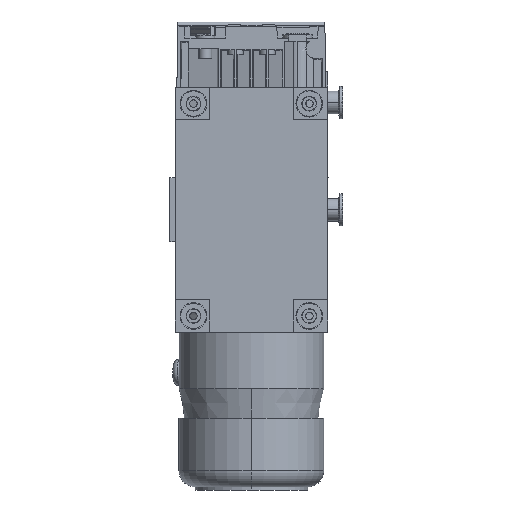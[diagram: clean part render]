
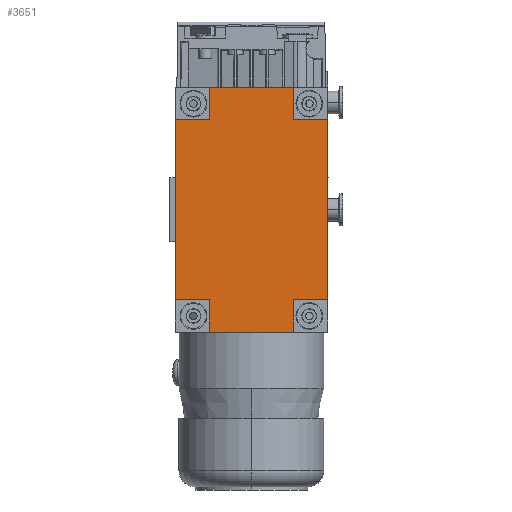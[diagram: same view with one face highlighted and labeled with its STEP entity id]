
A CAD part, front view. The second image highlights one B-rep face of the part: STEP entity #3651.
In plain terms, the highlighted planar face has unit normal (0, -1, 0).
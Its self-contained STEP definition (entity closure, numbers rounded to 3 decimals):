
#167=DIRECTION('',(0.,0.,-1.));
#168=VECTOR('',#167,168.);
#169=CARTESIAN_POINT('',(-71.,-103.,84.));
#170=LINE('',#169,#168);
#973=DIRECTION('',(0.,0.,-1.));
#974=VECTOR('',#973,168.);
#975=CARTESIAN_POINT('',(71.,-103.,84.));
#976=LINE('',#975,#974);
#1029=DIRECTION('',(-1.,0.,0.));
#1030=VECTOR('',#1029,79.);
#1031=CARTESIAN_POINT('',(39.5,-103.,-114.));
#1032=LINE('',#1031,#1030);
#1065=DIRECTION('',(1.,0.,0.));
#1066=VECTOR('',#1065,32.024);
#1067=CARTESIAN_POINT('',(-71.,-103.,84.));
#1068=LINE('',#1067,#1066);
#1069=DIRECTION('',(-0.017,0.,1.));
#1070=VECTOR('',#1069,30.005);
#1071=CARTESIAN_POINT('',(-38.976,-103.,84.));
#1072=LINE('',#1071,#1070);
#1073=DIRECTION('',(-0.017,0.,-1.));
#1074=VECTOR('',#1073,30.005);
#1075=CARTESIAN_POINT('',(39.5,-103.,114.));
#1076=LINE('',#1075,#1074);
#1077=DIRECTION('',(1.,0.,0.));
#1078=VECTOR('',#1077,32.024);
#1079=CARTESIAN_POINT('',(38.976,-103.,84.));
#1080=LINE('',#1079,#1078);
#1081=DIRECTION('',(-1.,0.,0.));
#1082=VECTOR('',#1081,32.024);
#1083=CARTESIAN_POINT('',(71.,-103.,-84.));
#1084=LINE('',#1083,#1082);
#1085=DIRECTION('',(0.017,0.,-1.));
#1086=VECTOR('',#1085,30.005);
#1087=CARTESIAN_POINT('',(38.976,-103.,-84.));
#1088=LINE('',#1087,#1086);
#1089=DIRECTION('',(0.017,0.,1.));
#1090=VECTOR('',#1089,30.005);
#1091=CARTESIAN_POINT('',(-39.5,-103.,-114.));
#1092=LINE('',#1091,#1090);
#1093=DIRECTION('',(-1.,0.,0.));
#1094=VECTOR('',#1093,32.024);
#1095=CARTESIAN_POINT('',(-38.976,-103.,-84.));
#1096=LINE('',#1095,#1094);
#1125=DIRECTION('',(-1.,0.,0.));
#1126=VECTOR('',#1125,79.);
#1127=CARTESIAN_POINT('',(39.5,-103.,114.));
#1128=LINE('',#1127,#1126);
#1949=CARTESIAN_POINT('',(39.5,-103.,114.));
#1950=CARTESIAN_POINT('',(-39.5,-103.,114.));
#1951=VERTEX_POINT('',#1949);
#1952=VERTEX_POINT('',#1950);
#1953=CARTESIAN_POINT('',(39.5,-103.,-114.));
#1954=CARTESIAN_POINT('',(-39.5,-103.,-114.));
#1955=VERTEX_POINT('',#1953);
#1956=VERTEX_POINT('',#1954);
#1957=CARTESIAN_POINT('',(38.976,-103.,-84.));
#1958=VERTEX_POINT('',#1957);
#2033=CARTESIAN_POINT('',(-38.976,-103.,84.));
#2034=VERTEX_POINT('',#2033);
#2035=CARTESIAN_POINT('',(38.976,-103.,84.));
#2036=VERTEX_POINT('',#2035);
#2037=CARTESIAN_POINT('',(-38.976,-103.,-84.));
#2038=VERTEX_POINT('',#2037);
#2139=CARTESIAN_POINT('',(-71.,-103.,84.));
#2140=CARTESIAN_POINT('',(-71.,-103.,-84.));
#2141=VERTEX_POINT('',#2139);
#2142=VERTEX_POINT('',#2140);
#2143=CARTESIAN_POINT('',(71.,-103.,84.));
#2144=CARTESIAN_POINT('',(71.,-103.,-84.));
#2145=VERTEX_POINT('',#2143);
#2146=VERTEX_POINT('',#2144);
#3627=CARTESIAN_POINT('',(39.5,-103.,136.8));
#3628=DIRECTION('',(0.,1.,0.));
#3629=DIRECTION('',(-1.,0.,0.));
#3630=AXIS2_PLACEMENT_3D('',#3627,#3628,#3629);
#3631=PLANE('',#3630);
#3633=ORIENTED_EDGE('',*,*,#3632,.T.);
#3635=ORIENTED_EDGE('',*,*,#3634,.T.);
#3637=ORIENTED_EDGE('',*,*,#3636,.F.);
#3639=ORIENTED_EDGE('',*,*,#3638,.T.);
#3641=ORIENTED_EDGE('',*,*,#3640,.T.);
#3642=ORIENTED_EDGE('',*,*,#3438,.T.);
#3643=ORIENTED_EDGE('',*,*,#3595,.T.);
#3644=ORIENTED_EDGE('',*,*,#3621,.T.);
#3645=ORIENTED_EDGE('',*,*,#3561,.T.);
#3646=ORIENTED_EDGE('',*,*,#3581,.T.);
#3647=ORIENTED_EDGE('',*,*,#3608,.T.);
#3648=ORIENTED_EDGE('',*,*,#2318,.F.);
#3649=EDGE_LOOP('',(#3633,#3635,#3637,#3639,#3641,#3642,#3643,#3644,#3645,#3646,
#3647,#3648));
#3650=FACE_OUTER_BOUND('',#3649,.F.);
#2318=EDGE_CURVE('',#2141,#2142,#170,.T.);
#3438=EDGE_CURVE('',#2145,#2146,#976,.T.);
#3561=EDGE_CURVE('',#1955,#1956,#1032,.T.);
#3581=EDGE_CURVE('',#1956,#2038,#1092,.T.);
#3595=EDGE_CURVE('',#2146,#1958,#1084,.T.);
#3608=EDGE_CURVE('',#2038,#2142,#1096,.T.);
#3621=EDGE_CURVE('',#1958,#1955,#1088,.T.);
#3632=EDGE_CURVE('',#2141,#2034,#1068,.T.);
#3634=EDGE_CURVE('',#2034,#1952,#1072,.T.);
#3636=EDGE_CURVE('',#1951,#1952,#1128,.T.);
#3638=EDGE_CURVE('',#1951,#2036,#1076,.T.);
#3640=EDGE_CURVE('',#2036,#2145,#1080,.T.);
#3651=ADVANCED_FACE('',(#3650),#3631,.F.);
